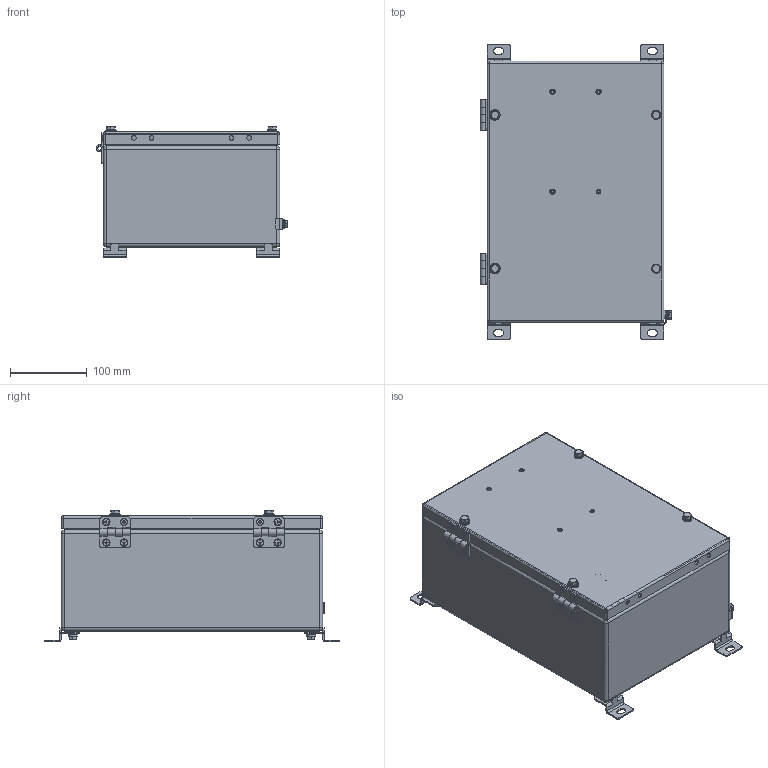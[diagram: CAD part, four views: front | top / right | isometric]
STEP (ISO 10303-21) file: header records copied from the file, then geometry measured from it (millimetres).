
FILE_DESCRIPTION((''),'2;1');
FILE_NAME('\\192.168.5.25\cortem_klient\INVENTOR БАЗА МОДЕЛЕЙ\Актуальная база моделей для отдела продаж\КСРВ-Н\КСРВ-Н342315_М5.stp','2019-04-09T14:13:17',('A.S.Kozlov'),(''),'Autodesk Inventor 2012','Autodesk Inventor 2012','');
FILE_SCHEMA(('CONFIG_CONTROL_DESIGN'));
Length unit declared in the file: millimetre
Products named in the file (1): КСРВ-(параметрическая модель)_Внешний контур_1
Bounding box: 249.19 x 384 x 171.2 mm (x, y, z)
Surface area: 490907.8 mm2 (no closed solid volume)
Topology: 0 solids, 86 shells, 351 faces, 1348 edges, 1003 vertices
Faces by surface type: plane 199, cylinder 136, sphere 12, cone 4
Full cylindrical faces by diameter (mm): 5 x2, 5.9 x4, 6.1 x4, 10 x2, 12 x8, 12.7 x4, 14 x2
Entity records: 14726 total; most frequent: CARTESIAN_POINT 2818, DIRECTION 2434, ORIENTED_EDGE 1867, EDGE_CURVE 1305, VERTEX_POINT 993, AXIS2_PLACEMENT_3D 861, VECTOR 712, LINE 712
